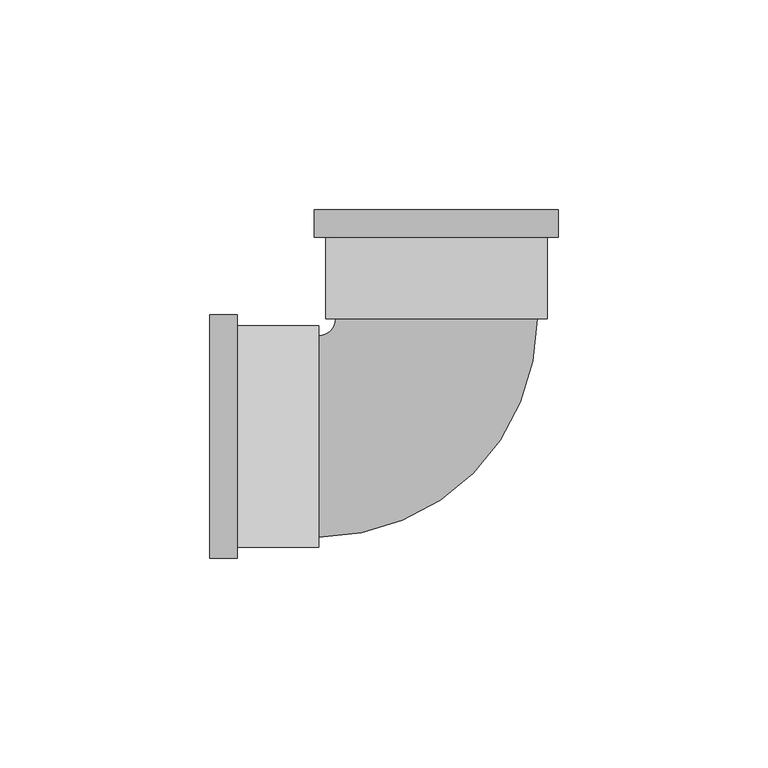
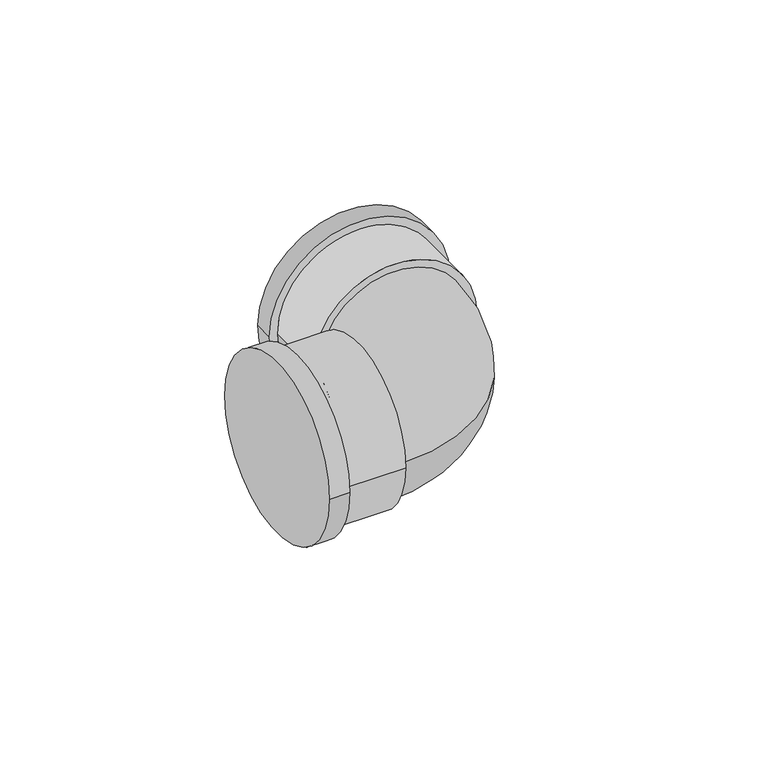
"""IFC4 building model written with IfcOpenShell, lengths in millimetres: pipe fitting geometry, Cotovelo - PVC - CW : Padrão."""

from ifc_helpers import new_model, si_unit, point, frame, origin, place, context, project, spatial, circle_curve, ellipse_curve, trimmed, source, transform, mapped, element, save
from ifc_brep_helpers import plane_surface, cylinder_surface, revolved_surface, advanced_brep


def pipe_fitting_757192a1(model_context):
    return source(origin(), model_context, "Body", "AdvancedBrep", [
        advanced_brep(
        [(-54.0030254, -29.04, 0.0), (-54.0030254, 29.04, 0.0), (-47.5030254, -29.04, 0.0), (-47.5030254, 29.04, 0.0), (-47.5030254, -26.4, 0.0), (-47.5030254, 26.4, 0.0), (-28.0030254, 26.4, 0.0), (-28.0030254, -26.4, 0.0), (-28.0030254, -24.0, 0.0), (-28.0030254, 24.0, 0.0), (-24.0030254, 28.0004322, 0.0), (23.9969743, 28.0056183, 0.0), (26.3969743, 28.0058776, 0.0), (-26.4030254, 28.0001729, 0.0), (-29.0458346, 53.9998875, 0.0), (29.0341651, 54.0061627, 0.0), (26.3948674, 47.5058775, 0.0), (-26.4051323, 47.5001728, 0.0), (-29.0451323, 47.4998875, 0.0), (29.0348674, 47.5061628, 0.0)],
        [
            (0, 1, circle_curve(frame((-54.0030254, 0.0, 0.0), z_axis=(-1.0, 0.0, 0.0), x_axis=(0.0, 1.0, 0.0)), 29.04)),
            (1, 0, circle_curve(frame((-54.0030254, 0.0, 0.0), z_axis=(-1.0, 0.0, 0.0), x_axis=(0.0, 1.0, 0.0)), 29.04)),
            (2, 3, circle_curve(frame((-47.5030254, 0.0, 0.0), z_axis=(1.0, 0.0, 0.0), x_axis=(0.0, 1.0, 0.0)), 29.04)),
            (3, 2, circle_curve(frame((-47.5030254, 0.0, 0.0), z_axis=(1.0, 0.0, 0.0), x_axis=(0.0, 1.0, 0.0)), 29.04)),
            (4, 5, circle_curve(frame((-47.5030254, 0.0, 0.0), z_axis=(-1.0, 0.0, 0.0), x_axis=(0.0, -1.0, 0.0)), 26.4)),
            (5, 4, circle_curve(frame((-47.5030254, 0.0, 0.0), z_axis=(-1.0, 0.0, 0.0), x_axis=(0.0, -1.0, 0.0)), 26.4)),
            (0, 2),
            (3, 1),
            (6, 7, circle_curve(frame((-28.0030254, 0.0, 0.0), z_axis=(1.0, 0.0, 0.0), x_axis=(0.0, -1.0, 0.0)), 26.4)),
            (7, 6, circle_curve(frame((-28.0030254, 0.0, 0.0), z_axis=(1.0, 0.0, 0.0), x_axis=(0.0, -1.0, 0.0)), 26.4)),
            (8, 9, circle_curve(frame((-28.0030254, 0.0, 0.0), z_axis=(-1.0, 0.0, 0.0), x_axis=(0.0, 1.0, 0.0)), 24.0)),
            (9, 8, circle_curve(frame((-28.0030254, 0.0, 0.0), z_axis=(-1.0, 0.0, 0.0), x_axis=(0.0, 1.0, 0.0)), 24.0)),
            (6, 5),
            (4, 7),
            (10, 9, circle_curve(frame((-28.0030254, 28.0, 0.0), z_axis=(0.0, 0.0, -1.0), x_axis=(0.0, -1.0, 0.0)), 4.0)),
            (8, 11, circle_curve(frame((-28.0030254, 28.0, 0.0), z_axis=(0.0, 0.0, 1.0), x_axis=(0.0, -1.0, 0.0)), 52.0)),
            (11, 10, circle_curve(frame((-0.0030256, 28.0030253, 0.0), z_axis=(0.00010804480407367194, -0.9999999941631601, 0.0), x_axis=(-0.9999999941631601, -0.00010804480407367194, 0.0)), 24.0)),
            (10, 11, circle_curve(frame((-0.0030256, 28.0030253, 0.0), z_axis=(0.00010804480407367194, -0.9999999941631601, 0.0), x_axis=(-0.9999999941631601, -0.00010804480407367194, 0.0)), 24.0)),
            (12, 13, circle_curve(frame((-0.0030256, 28.0030253, 0.0), z_axis=(0.00010804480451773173, -0.9999999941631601, 0.0), x_axis=(-0.9999999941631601, -0.00010804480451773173, 0.0)), 26.4)),
            (13, 12, circle_curve(frame((-0.0030256, 28.0030253, 0.0), z_axis=(0.00010804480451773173, -0.9999999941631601, 0.0), x_axis=(-0.9999999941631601, -0.00010804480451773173, 0.0)), 26.4)),
            (14, 15, circle_curve(frame((-0.0058347, 54.0030251, 0.0), z_axis=(-0.00010804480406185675, 0.9999999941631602, 0.0), x_axis=(0.9999999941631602, 0.00010804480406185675, 0.0)), 29.04)),
            (15, 14, circle_curve(frame((-0.0058347, 54.0030251, 0.0), z_axis=(-0.00010804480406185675, 0.9999999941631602, 0.0), x_axis=(0.9999999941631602, 0.00010804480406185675, 0.0)), 29.04)),
            (12, 16),
            (16, 17, circle_curve(frame((-0.0051325, 47.5030251, 0.0), z_axis=(0.00010804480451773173, -0.9999999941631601, 0.0), x_axis=(-0.9999999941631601, -0.00010804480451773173, 0.0)), 26.4)),
            (17, 13),
            (17, 16, circle_curve(frame((-0.0051325, 47.5030251, 0.0), z_axis=(0.00010804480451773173, -0.9999999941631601, 0.0), x_axis=(-0.9999999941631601, -0.00010804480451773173, 0.0)), 26.4)),
            (18, 19, circle_curve(frame((-0.0051325, 47.5030251, 0.0), z_axis=(0.00010804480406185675, -0.9999999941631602, 0.0), x_axis=(0.9999999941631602, 0.00010804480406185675, 0.0)), 29.04)),
            (19, 18, circle_curve(frame((-0.0051325, 47.5030251, 0.0), z_axis=(0.00010804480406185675, -0.9999999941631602, 0.0), x_axis=(0.9999999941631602, 0.00010804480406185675, 0.0)), 29.04)),
            (14, 18),
            (19, 15),
        ],
        [
            plane_surface(frame((-54.0030254, 0.0, 0.0), z_axis=(-1.0, 0.0, 0.0), x_axis=(0.0, 0.0, 1.0))),
            plane_surface(frame((-47.5030254, 0.0, 0.0), z_axis=(1.0, 0.0, 0.0), x_axis=(0.0, 0.0, 1.0))),
            cylinder_surface(frame((-54.0030254, 0.0, 0.0), z_axis=(-1.0, 0.0, 0.0), x_axis=(0.0, 1.0, 0.0)), 29.04),
            plane_surface(frame((-28.0030254, 0.0, 0.0), z_axis=(1.0, 0.0, 0.0), x_axis=(0.0, 0.0, 1.0))),
            cylinder_surface(frame((-28.0030254, 0.0, 0.0), z_axis=(1.0, 0.0, 0.0), x_axis=(0.0, -1.0, 0.0)), 26.4),
            revolved_surface(trimmed(ellipse_curve(frame((-28.0030254, 0.0, 0.0), z_axis=(-1.0, 0.0, 0.0), x_axis=(0.0, 1.0, 0.0)), 24.0, 24.0), [point((-28.0030254, -24.0, 0.0))], [point((-28.0030254, 24.0, 0.0))], True, "CARTESIAN"), (-28.0030254, 28.0, 0.0), (0.0, 0.0, 1.0)),
            revolved_surface(trimmed(ellipse_curve(frame((-28.0030254, 0.0, 0.0), z_axis=(-1.0, 0.0, 0.0), x_axis=(0.0, 1.0, 0.0)), 24.0, 24.0), [point((-28.0030254, 24.0, 0.0))], [point((-28.0030254, -24.0, 0.0))], True, "CARTESIAN"), (-28.0030254, 28.0, 0.0), (0.0, 0.0, 1.0)),
            plane_surface(frame((-0.0030256, 28.0030253, 0.0), z_axis=(0.00010804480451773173, -0.9999999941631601, 0.0), x_axis=(0.0, 0.0, 1.0))),
            plane_surface(frame((-0.0058347, 54.0030251, 0.0), z_axis=(-0.00010804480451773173, 0.9999999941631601, 0.0), x_axis=(0.0, 0.0, 1.0))),
            cylinder_surface(frame((-0.0030256, 28.0030253, 0.0), z_axis=(0.00010804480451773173, -0.9999999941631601, 0.0), x_axis=(-0.9999999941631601, -0.00010804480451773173, 0.0)), 26.4),
            plane_surface(frame((-0.0051325, 47.5030251, 0.0), z_axis=(0.00010804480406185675, -0.9999999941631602, 0.0), x_axis=(0.0, 0.0, 1.0))),
            cylinder_surface(frame((-0.0058347, 54.0030251, 0.0), z_axis=(-0.00010804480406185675, 0.9999999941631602, 0.0), x_axis=(0.9999999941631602, 0.00010804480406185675, 0.0)), 29.04),
        ],
        [
            (0, [[1, 2]]),
            (1, [[3, 4], [5, 6]]),
            (2, [[-1, 7, -4, 8]]),
            (2, [[-2, -8, -3, -7]]),
            (3, [[9, 10], [11, 12]]),
            (4, [[-9, 13, -5, 14]]),
            (4, [[-10, -14, -6, -13]]),
            (5, [[15, -11, 16, 17]]),
            (6, [[-15, 18, -16, -12]]),
            (7, [[19, 20], [-17, -18]]),
            (8, [[21, 22]]),
            (9, [[-19, 23, 24, 25]]),
            (9, [[-20, -25, 26, -23]]),
            (10, [[27, 28], [-24, -26]]),
            (11, [[-21, 29, -28, 30]]),
            (11, [[-22, -30, -27, -29]]),
        ],
    ),
    ])


if __name__ == "__main__":
    model = new_model("IFC4")
    model_context = context("Model", 3, world=origin())
    ifc_project = project(units=[si_unit("LENGTHUNIT", "METRE", prefix="MILLI")], contexts=[model_context])
    site = spatial("IfcSite", under=ifc_project)
    building = spatial("IfcBuilding", under=site)
    placement = place(None, origin())
    pipe_fitting_shape = pipe_fitting_757192a1(model_context)
    element("IfcPipeFitting", 1, ObjectType="Cotovelo - PVC - CW : Padrão", at=placement, inside=building, context=model_context, shape_type="MappedRepresentation", body=[
        mapped(pipe_fitting_shape, transform((0.0, 0.0, 0.0), x_axis=(1.0, 0.0, 0.0), y_axis=(0.0, 1.0, 0.0), z_axis=(0.0, 0.0, 1.0))),
    ])
    save(model, "model.ifc")
